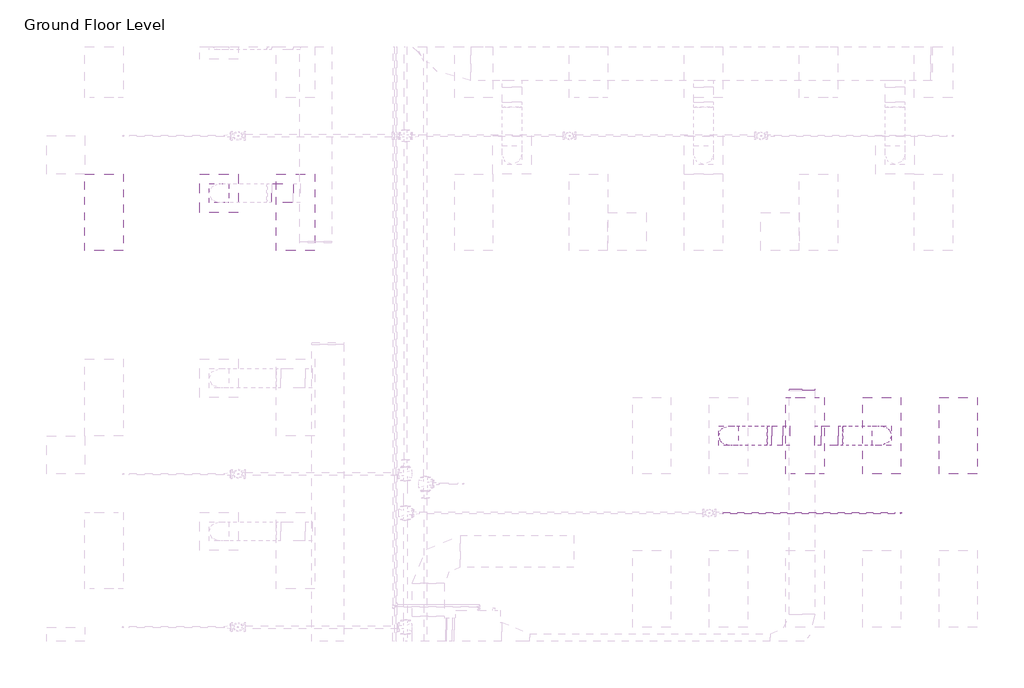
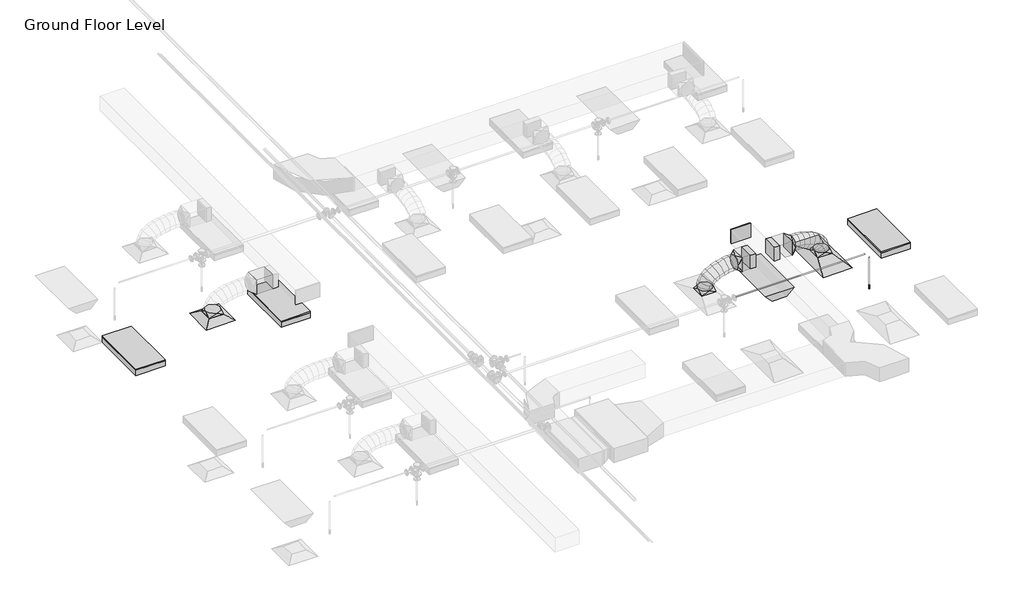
# One storey, part 29 of 75: 8 duct fittings, 5 duct segments, 4 light fixtures, 2 air terminals, 2 pipe segments, 1 fire suppression terminal.
"""IFC4 building model written with IfcOpenShell, lengths in millimetres."""

from ifc_helpers import new_model, si_unit, point, frame, frame_2d, origin, place, context, project, spatial, polyline, circle_curve, ellipse_curve, trimmed, segment, composite_curve, outline, extrude, transform, mapped, element, save
from ifc_brep_helpers import plane_surface, cylinder_surface, advanced_brep
from components import m_return_diffuser_1200x600_1200_x_600_face_300_x_300_d1983ef6, m_return_diffuser_600_x_600_face_300_x_300_connection_ff221211, m_rectangular_endcap_standard_0945e9d3, m_rectangular_takeoff_standard_cb0ccb98, m_rectangular_to_round_transition_angle_45_degree_641efff0, m_sprinkler_dry_pendent_hosted_15_mm_dry_pendent_9bda8e11, m_emergency_recessed_lighting_fixture_600x1200_277_5b10b25d, m_troffer_light_parabolic_rectangular1_0600x1200mm_4_lamp_86473d4a

model = new_model("IFC4")

# Units and contexts
model_context = context("Model", 3, world=origin())
ifc_project = project(units=[si_unit("LENGTHUNIT", "METRE", prefix="MILLI")], contexts=[model_context])

# Site, building, storey
site = spatial("IfcSite", under=ifc_project)
building = spatial("IfcBuilding", under=site)
storey = spatial("IfcBuildingStorey", under=building, Name="Ground Floor Level", Elevation=900.0)

# Air terminals
placement = place(None, origin())
m_return_diffuser_1200x600_1200_x_600_face_300_x_300_shape = m_return_diffuser_1200x600_1200_x_600_face_300_x_300_d1983ef6(model_context)
element("IfcAirTerminal", 1, ObjectType="M_Supply Diffuser 1200x600 : 1200 x 600 Face 300 x 300 Connection", at=placement, inside=storey, context=model_context, shape_type="MappedRepresentation", body=[
    mapped(m_return_diffuser_1200x600_1200_x_600_face_300_x_300_shape, transform((13143.0482736, -18064.7846466, 3650.0), x_axis=(0.0, 1.0, 0.0), y_axis=(-1.0, 0.0, 0.0), z_axis=(0.0, 0.0, 1.0))),
])
m_return_diffuser_600_x_600_face_300_x_300_connection_shape = m_return_diffuser_600_x_600_face_300_x_300_connection_ff221211(model_context)
element("IfcAirTerminal", 2, ObjectType="M_Supply Diffuser : 600 x 600 Face 300 x 300 Connection", at=placement, inside=storey, context=model_context, shape_type="MappedRepresentation", body=[
    mapped(m_return_diffuser_600_x_600_face_300_x_300_connection_shape, transform((2762.7672395, -14264.7846466, 3650.0), x_axis=(1.0, 0.0, 0.0), y_axis=(0.0, 1.0, 0.0), z_axis=(0.0, 0.0, 1.0))),
])

# Duct fittings
m_rectangular_endcap_standard_shape = m_rectangular_endcap_standard_0945e9d3(model_context)
element("IfcDuctFitting", 3, ObjectType="M_Rectangular Endcap : Standard", at=placement, inside=storey, context=model_context, shape_type="MappedRepresentation", body=[
    mapped(m_rectangular_endcap_standard_shape, transform((11897.7826463, -17358.2846466, 4150.0003854), x_axis=(0.0, 1.0, 0.0), y_axis=(-1.0, 0.0, 0.0), z_axis=(0.0, 0.0, 1.0))),
])
m_rectangular_takeoff_standard_shape = m_rectangular_takeoff_standard_cb0ccb98(model_context)
element("IfcDuctFitting", 4, ObjectType="M_Rectangular Takeoff : Standard", at=placement, inside=storey, context=model_context, shape_type="MappedRepresentation", body=[
    mapped(m_rectangular_takeoff_standard_shape, transform((11697.7826463, -18064.7846466, 4150.0), x_axis=(-1.0, 0.0, 0.0), y_axis=(0.0, 1.0, 0.0), z_axis=(0.0, 0.0, -1.0))),
])
element("IfcDuctFitting", 5, ObjectType="M_Rectangular Takeoff : Standard", at=placement, inside=storey, context=model_context, shape_type="MappedRepresentation", body=[
    mapped(m_rectangular_takeoff_standard_shape, transform((12097.7826463, -18064.7846466, 4150.0), x_axis=(1.0, 0.0, 0.0), y_axis=(0.0, 1.0, 0.0), z_axis=(0.0, 0.0, 1.0))),
])
m_rectangular_to_round_transition_angle_45_degree_shape = m_rectangular_to_round_transition_angle_45_degree_641efff0(model_context)
element("IfcDuctFitting", 6, ObjectType="M_Rectangular to Round Transition - Angle : 45 Degree", at=placement, inside=storey, context=model_context, shape_type="MappedRepresentation", body=[
    mapped(m_rectangular_to_round_transition_angle_45_degree_shape, transform((13143.0482736, -18064.7846466, 3751.6), x_axis=(0.0, 0.0, 1.0), y_axis=(-1.0, 0.0, 0.0), z_axis=(0.0, -1.0, 0.0))),
])
element("IfcDuctFitting", 7, ObjectType="M_Rectangular to Round Transition - Angle : 45 Degree", at=placement, inside=storey, context=model_context, shape_type="MappedRepresentation", body=[
    mapped(m_rectangular_to_round_transition_angle_45_degree_shape, transform((12461.6123423, -18064.7846466, 4150.0), x_axis=(1.0, 0.0, 0.0), y_axis=(0.0, 1.0, 0.0), z_axis=(0.0, 0.0, 1.0))),
])
element("IfcDuctFitting", 8, ObjectType="M_Rectangular to Round Transition - Angle : 45 Degree", at=placement, inside=storey, context=model_context, shape_type="MappedRepresentation", body=[
    mapped(m_rectangular_to_round_transition_angle_45_degree_shape, transform((10743.0482736, -18064.7846466, 3751.6), x_axis=(0.0, 0.0, 1.0), y_axis=(-1.0, 0.0, 0.0), z_axis=(0.0, -1.0, 0.0))),
])
element("IfcDuctFitting", 9, ObjectType="M_Rectangular to Round Transition - Angle : 45 Degree", at=placement, inside=storey, context=model_context, shape_type="MappedRepresentation", body=[
    mapped(m_rectangular_to_round_transition_angle_45_degree_shape, transform((11424.4842049, -18064.7846466, 4150.0), x_axis=(-1.0, 0.0, 0.0), y_axis=(0.0, -1.0, 0.0), z_axis=(0.0, 0.0, 1.0))),
])
element("IfcDuctFitting", 10, ObjectType="M_Rectangular to Round Transition - Angle : 45 Degree", at=placement, inside=storey, context=model_context, shape_type="MappedRepresentation", body=[
    mapped(m_rectangular_to_round_transition_angle_45_degree_shape, transform((2762.7672395, -14264.7846466, 3751.6), x_axis=(0.0, 0.0, 1.0), y_axis=(-1.0, 0.0, 0.0), z_axis=(0.0, -1.0, 0.0))),
])

# Duct segments
element("IfcDuctSegment", 11, ObjectType="Flex - Round", at=placement, inside=storey, context=model_context, shape_type="AdvancedBrep", body=[
    advanced_brep(
    [(13293.0482736, -18064.7846466, 3826.6), (13143.0482736, -18214.7846466, 3826.6), (12993.0482736, -18064.7846466, 3826.6), (13143.0482736, -17914.7846466, 3826.6), (13293.0482736, -18064.7846466, 3882.1261126), (13143.0482736, -18214.7846466, 3857.3049615), (12993.0482736, -18064.7846466, 3832.4838104), (13143.0482736, -17914.7846466, 3857.3049615), (13261.8549494, -18064.7846466, 3973.7995287), (13126.3868691, -18214.7846466, 3906.2708192), (12990.9187887, -18064.7846466, 3838.7421096), (13126.3868691, -17914.7846466, 3906.2708192), (13192.1209419, -18064.7846466, 4076.4123668), (13080.5088514, -18214.7846466, 3973.7798261), (12968.8967609, -18064.7846466, 3871.1472855), (13080.5088514, -17914.7846466, 3973.7798261), (13094.1929933, -18064.7846466, 4155.7111802), (13011.5735148, -18214.7846466, 4029.6013814), (12928.9540363, -18064.7846466, 3903.4915826), (13011.5735148, -17914.7846466, 4029.6013814), (12985.4484532, -18064.7846466, 4212.226815), (12925.7401534, -18214.7846466, 4074.2098454), (12866.0318537, -18064.7846466, 3936.1928758), (12925.7401534, -17914.7846466, 4074.2098454), (12871.156661, -18064.7846466, 4252.311196), (12829.1680613, -18214.7846466, 4108.0795788), (12787.1794617, -18064.7846466, 3963.8479616), (12829.1680613, -17914.7846466, 4108.0795788), (12755.4255864, -18064.7846466, 4279.3189347), (12728.0165327, -18214.7846466, 4131.684942), (12700.6074791, -18064.7846466, 3984.0509494), (12728.0165327, -17914.7846466, 4131.684942), (12642.7664277, -18064.7846466, 4294.9501488), (12628.4448617, -18214.7846466, 4145.5002956), (12614.1232957, -18064.7846466, 3996.0504424), (12628.4448617, -17914.7846466, 4145.5002956), (12547.9447851, -18064.7846466, 4300.0), (12543.9533896, -18214.7846466, 4150.0), (12539.9619941, -18064.7846466, 4000.0), (12543.9533896, -17914.7846466, 4150.0), (12536.6123423, -18064.7846466, 4300.0), (12536.6123423, -17914.7846466, 4150.0), (12536.6123423, -18064.7846466, 4000.0), (12536.6123423, -18214.7846466, 4150.0)],
    [
        (0, 1, circle_curve(frame((13143.0482736, -18064.7846466, 3826.6), z_axis=(0.0, 0.0, -1.0), x_axis=(1.0, 0.0, 0.0)), 150.0)),
        (1, 2, circle_curve(frame((13143.0482736, -18064.7846466, 3826.6), z_axis=(0.0, 0.0, -1.0), x_axis=(1.0, 0.0, 0.0)), 150.0)),
        (2, 3, circle_curve(frame((13143.0482736, -18064.7846466, 3826.6), z_axis=(0.0, 0.0, -1.0), x_axis=(1.0, 0.0, 0.0)), 150.0)),
        (3, 0, circle_curve(frame((13143.0482736, -18064.7846466, 3826.6), z_axis=(0.0, 0.0, -1.0), x_axis=(1.0, 0.0, 0.0)), 150.0)),
        (0, 4),
        (4, 5, ellipse_curve(frame((13143.0482736, -18064.7846466, 3857.3049615), z_axis=(0.16325433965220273, 0.0, -0.9865840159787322), x_axis=(-0.9865840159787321, 0.0, -0.1632543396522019)), 152.039763, 150.0)),
        (5, 1),
        (5, 6, ellipse_curve(frame((13143.0482736, -18064.7846466, 3857.3049615), z_axis=(0.16325433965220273, 0.0, -0.9865840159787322), x_axis=(-0.9865840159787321, 0.0, -0.1632543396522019)), 152.039763, 150.0)),
        (6, 2),
        (6, 7, ellipse_curve(frame((13143.0482736, -18064.7846466, 3857.3049615), z_axis=(0.16325433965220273, 0.0, -0.9865840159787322), x_axis=(-0.9865840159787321, 0.0, -0.1632543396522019)), 152.039763, 150.0)),
        (7, 3),
        (7, 4, ellipse_curve(frame((13143.0482736, -18064.7846466, 3857.3049615), z_axis=(0.16325433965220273, 0.0, -0.9865840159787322), x_axis=(-0.9865840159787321, 0.0, -0.1632543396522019)), 152.039763, 150.0)),
        (4, 8),
        (8, 9, ellipse_curve(frame((13126.3868691, -18064.7846466, 3906.2708192), z_axis=(0.44612805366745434, 0.0, -0.8949691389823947), x_axis=(-0.8949691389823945, 0.0, -0.4461280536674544)), 151.366203, 150.0)),
        (9, 5),
        (9, 10, ellipse_curve(frame((13126.3868691, -18064.7846466, 3906.2708192), z_axis=(0.44612805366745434, 0.0, -0.8949691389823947), x_axis=(-0.8949691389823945, 0.0, -0.4461280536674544)), 151.366203, 150.0)),
        (10, 6),
        (10, 11, ellipse_curve(frame((13126.3868691, -18064.7846466, 3906.2708192), z_axis=(0.44612805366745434, 0.0, -0.8949691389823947), x_axis=(-0.8949691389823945, 0.0, -0.4461280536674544)), 151.366203, 150.0)),
        (11, 7),
        (11, 8, ellipse_curve(frame((13126.3868691, -18064.7846466, 3906.2708192), z_axis=(0.44612805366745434, 0.0, -0.8949691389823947), x_axis=(-0.8949691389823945, 0.0, -0.4461280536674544)), 151.366203, 150.0)),
        (8, 12),
        (12, 13, ellipse_curve(frame((13080.5088514, -18064.7846466, 3973.7798261), z_axis=(0.6768758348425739, 0.0, -0.7360972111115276), x_axis=(-0.7360972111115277, 0.0, -0.6768758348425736)), 151.6268352, 150.0)),
        (13, 9),
        (13, 14, ellipse_curve(frame((13080.5088514, -18064.7846466, 3973.7798261), z_axis=(0.6768758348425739, 0.0, -0.7360972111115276), x_axis=(-0.7360972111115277, 0.0, -0.6768758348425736)), 151.6268352, 150.0)),
        (14, 10),
        (14, 15, ellipse_curve(frame((13080.5088514, -18064.7846466, 3973.7798261), z_axis=(0.6768758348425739, 0.0, -0.7360972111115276), x_axis=(-0.7360972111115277, 0.0, -0.6768758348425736)), 151.6268352, 150.0)),
        (15, 11),
        (15, 12, ellipse_curve(frame((13080.5088514, -18064.7846466, 3973.7798261), z_axis=(0.6768758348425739, 0.0, -0.7360972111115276), x_axis=(-0.7360972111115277, 0.0, -0.6768758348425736)), 151.6268352, 150.0)),
        (12, 16),
        (16, 17, ellipse_curve(frame((13011.5735148, -18064.7846466, 4029.6013814), z_axis=(0.8364738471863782, 0.0, -0.548006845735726), x_axis=(-0.5480068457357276, 0.0, -0.836473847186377)), 150.7635884, 150.0)),
        (17, 13),
        (17, 18, ellipse_curve(frame((13011.5735148, -18064.7846466, 4029.6013814), z_axis=(0.8364738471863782, 0.0, -0.548006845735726), x_axis=(-0.5480068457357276, 0.0, -0.836473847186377)), 150.7635884, 150.0)),
        (18, 14),
        (18, 19, ellipse_curve(frame((13011.5735148, -18064.7846466, 4029.6013814), z_axis=(0.8364738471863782, 0.0, -0.548006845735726), x_axis=(-0.5480068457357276, 0.0, -0.836473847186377)), 150.7635884, 150.0)),
        (19, 15),
        (19, 16, ellipse_curve(frame((13011.5735148, -18064.7846466, 4029.6013814), z_axis=(0.8364738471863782, 0.0, -0.548006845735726), x_axis=(-0.5480068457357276, 0.0, -0.836473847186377)), 150.7635884, 150.0)),
        (16, 20),
        (20, 21, ellipse_curve(frame((12925.7401534, -18064.7846466, 4074.2098454), z_axis=(0.9177957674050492, 0.0, -0.39705280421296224), x_axis=(-0.397052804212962, 0.0, -0.9177957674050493)), 150.3787384, 150.0)),
        (21, 17),
        (21, 22, ellipse_curve(frame((12925.7401534, -18064.7846466, 4074.2098454), z_axis=(0.9177957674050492, 0.0, -0.39705280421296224), x_axis=(-0.397052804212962, 0.0, -0.9177957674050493)), 150.3787384, 150.0)),
        (22, 18),
        (22, 23, ellipse_curve(frame((12925.7401534, -18064.7846466, 4074.2098454), z_axis=(0.9177957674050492, 0.0, -0.39705280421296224), x_axis=(-0.397052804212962, 0.0, -0.9177957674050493)), 150.3787384, 150.0)),
        (23, 19),
        (23, 20, ellipse_curve(frame((12925.7401534, -18064.7846466, 4074.2098454), z_axis=(0.9177957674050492, 0.0, -0.39705280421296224), x_axis=(-0.397052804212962, 0.0, -0.9177957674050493)), 150.3787384, 150.0)),
        (20, 24),
        (24, 25, ellipse_curve(frame((12829.1680613, -18064.7846466, 4108.0795788), z_axis=(0.960141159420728, 0.0, -0.27951557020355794), x_axis=(-0.2795155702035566, 0.0, -0.9601411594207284)), 150.2191795, 150.0)),
        (25, 21),
        (25, 26, ellipse_curve(frame((12829.1680613, -18064.7846466, 4108.0795788), z_axis=(0.960141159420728, 0.0, -0.27951557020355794), x_axis=(-0.2795155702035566, 0.0, -0.9601411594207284)), 150.2191795, 150.0)),
        (26, 22),
        (26, 27, ellipse_curve(frame((12829.1680613, -18064.7846466, 4108.0795788), z_axis=(0.960141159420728, 0.0, -0.27951557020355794), x_axis=(-0.2795155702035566, 0.0, -0.9601411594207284)), 150.2191795, 150.0)),
        (27, 23),
        (27, 24, ellipse_curve(frame((12829.1680613, -18064.7846466, 4108.0795788), z_axis=(0.960141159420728, 0.0, -0.27951557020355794), x_axis=(-0.2795155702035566, 0.0, -0.9601411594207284)), 150.2191795, 150.0)),
        (24, 28),
        (28, 29, ellipse_curve(frame((12728.0165327, -18064.7846466, 4131.684942), z_axis=(0.9831991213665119, 0.0, -0.18253626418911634), x_axis=(-0.18253626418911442, 0.0, -0.9831991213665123)), 150.1567581, 150.0)),
        (29, 25),
        (29, 30, ellipse_curve(frame((12728.0165327, -18064.7846466, 4131.684942), z_axis=(0.9831991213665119, 0.0, -0.18253626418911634), x_axis=(-0.18253626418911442, 0.0, -0.9831991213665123)), 150.1567581, 150.0)),
        (30, 26),
        (30, 31, ellipse_curve(frame((12728.0165327, -18064.7846466, 4131.684942), z_axis=(0.9831991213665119, 0.0, -0.18253626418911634), x_axis=(-0.18253626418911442, 0.0, -0.9831991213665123)), 150.1567581, 150.0)),
        (31, 27),
        (31, 28, ellipse_curve(frame((12728.0165327, -18064.7846466, 4131.684942), z_axis=(0.9831991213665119, 0.0, -0.18253626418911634), x_axis=(-0.18253626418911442, 0.0, -0.9831991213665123)), 150.1567581, 150.0)),
        (28, 32),
        (32, 33, ellipse_curve(frame((12628.4448617, -18064.7846466, 4145.5002956), z_axis=(0.9954398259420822, 0.0, -0.09539157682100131), x_axis=(-0.09539157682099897, 0.0, -0.9954398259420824)), 150.1344926, 150.0)),
        (33, 29),
        (33, 34, ellipse_curve(frame((12628.4448617, -18064.7846466, 4145.5002956), z_axis=(0.9954398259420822, 0.0, -0.09539157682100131), x_axis=(-0.09539157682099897, 0.0, -0.9954398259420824)), 150.1344926, 150.0)),
        (34, 30),
        (34, 35, ellipse_curve(frame((12628.4448617, -18064.7846466, 4145.5002956), z_axis=(0.9954398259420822, 0.0, -0.09539157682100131), x_axis=(-0.09539157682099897, 0.0, -0.9954398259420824)), 150.1344926, 150.0)),
        (35, 31),
        (35, 32, ellipse_curve(frame((12628.4448617, -18064.7846466, 4145.5002956), z_axis=(0.9954398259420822, 0.0, -0.09539157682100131), x_axis=(-0.09539157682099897, 0.0, -0.9954398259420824)), 150.1344926, 150.0)),
        (32, 36),
        (36, 37, ellipse_curve(frame((12543.9533896, -18064.7846466, 4150.0), z_axis=(0.9996461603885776, 0.0, -0.02659988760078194), x_axis=(-0.026599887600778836, 0.0, -0.9996461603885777)), 150.0530947, 150.0)),
        (37, 33),
        (37, 38, ellipse_curve(frame((12543.9533896, -18064.7846466, 4150.0), z_axis=(0.9996461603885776, 0.0, -0.02659988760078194), x_axis=(-0.026599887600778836, 0.0, -0.9996461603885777)), 150.0530947, 150.0)),
        (38, 34),
        (38, 39, ellipse_curve(frame((12543.9533896, -18064.7846466, 4150.0), z_axis=(0.9996461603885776, 0.0, -0.02659988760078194), x_axis=(-0.026599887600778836, 0.0, -0.9996461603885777)), 150.0530947, 150.0)),
        (39, 35),
        (39, 36, ellipse_curve(frame((12543.9533896, -18064.7846466, 4150.0), z_axis=(0.9996461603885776, 0.0, -0.02659988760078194), x_axis=(-0.026599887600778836, 0.0, -0.9996461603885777)), 150.0530947, 150.0)),
        (40, 41, circle_curve(frame((12536.6123423, -18064.7846466, 4150.0), z_axis=(-1.0, 0.0, 0.0), x_axis=(0.0, 0.0, 1.0)), 150.0)),
        (41, 42, circle_curve(frame((12536.6123423, -18064.7846466, 4150.0), z_axis=(-1.0, 0.0, 0.0), x_axis=(0.0, 0.0, 1.0)), 150.0)),
        (42, 43, circle_curve(frame((12536.6123423, -18064.7846466, 4150.0), z_axis=(-1.0, 0.0, 0.0), x_axis=(0.0, 0.0, 1.0)), 150.0)),
        (43, 40, circle_curve(frame((12536.6123423, -18064.7846466, 4150.0), z_axis=(-1.0, 0.0, 0.0), x_axis=(0.0, 0.0, 1.0)), 150.0)),
        (36, 40),
        (43, 37),
        (42, 38),
        (41, 39),
    ],
    [
        plane_surface(frame((13143.0482736, -18214.7846466, 3826.6), z_axis=(0.0, 0.0, -1.0), x_axis=(1.0, 0.0, 0.0))),
        cylinder_surface(frame((13143.0482736, -18064.7846466, 3826.6), z_axis=(0.0, 0.0, -1.0), x_axis=(1.0, 0.0, 0.0)), 150.0),
        cylinder_surface(frame((13143.0482736, -18064.7846466, 3857.3049615), z_axis=(0.3221282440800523, 0.0, -0.9466960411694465), x_axis=(0.9466960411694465, 0.0, 0.3221282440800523)), 150.0),
        cylinder_surface(frame((13126.3868691, -18064.7846466, 3906.2708192), z_axis=(0.5620745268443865, 0.0, -0.8270865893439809), x_axis=(0.8270865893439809, 0.0, 0.5620745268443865)), 150.0),
        cylinder_surface(frame((13080.5088514, -18064.7846466, 3973.7798261), z_axis=(0.7771524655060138, 0.0, -0.6293123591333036), x_axis=(0.6293123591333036, 0.0, 0.7771524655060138)), 150.0),
        cylinder_surface(frame((13011.5735148, -18064.7846466, 4029.6013814), z_axis=(0.8873220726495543, 0.0, -0.4611502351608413), x_axis=(0.4611502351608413, 0.0, 0.8873220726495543)), 150.0),
        cylinder_surface(frame((12925.7401534, -18064.7846466, 4074.2098454), z_axis=(0.943646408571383, 0.0, -0.3309553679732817), x_axis=(0.3309553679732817, 0.0, 0.943646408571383)), 150.0),
        cylinder_surface(frame((12829.1680613, -18064.7846466, 4108.0795788), z_axis=(0.9738340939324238, 0.0, -0.22726010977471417), x_axis=(0.22726010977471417, 0.0, 0.9738340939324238)), 150.0),
        cylinder_surface(frame((12728.0165327, -18064.7846466, 4131.684942), z_axis=(0.9905113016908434, 0.0, -0.1374312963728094), x_axis=(0.1374312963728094, 0.0, 0.9905113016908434)), 150.0),
        cylinder_surface(frame((12628.4448617, -18064.7846466, 4145.5002956), z_axis=(0.9985848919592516, 0.0, -0.05318095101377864), x_axis=(0.05318095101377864, 0.0, 0.9985848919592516)), 150.0),
        plane_surface(frame((12536.6123423, -18064.7846466, 4000.0), z_axis=(-1.0, 0.0, 0.0), x_axis=(0.0, -1.0, 0.0))),
        cylinder_surface(frame((12543.9533896, -18064.7846466, 4150.0), z_axis=(1.0, 0.0, 0.0), x_axis=(0.0, 0.0, 1.0)), 150.0),
    ],
    [
        (0, [[1, 2, 3, 4]]),
        (1, [[-1, 5, 6, 7]]),
        (1, [[-2, -7, 8, 9]]),
        (1, [[-3, -9, 10, 11]]),
        (1, [[-4, -11, 12, -5]]),
        (2, [[-6, 13, 14, 15]]),
        (2, [[-8, -15, 16, 17]]),
        (2, [[-10, -17, 18, 19]]),
        (2, [[-12, -19, 20, -13]]),
        (3, [[-14, 21, 22, 23]]),
        (3, [[-16, -23, 24, 25]]),
        (3, [[-18, -25, 26, 27]]),
        (3, [[-20, -27, 28, -21]]),
        (4, [[-22, 29, 30, 31]]),
        (4, [[-24, -31, 32, 33]]),
        (4, [[-26, -33, 34, 35]]),
        (4, [[-28, -35, 36, -29]]),
        (5, [[-30, 37, 38, 39]]),
        (5, [[-32, -39, 40, 41]]),
        (5, [[-34, -41, 42, 43]]),
        (5, [[-36, -43, 44, -37]]),
        (6, [[-38, 45, 46, 47]]),
        (6, [[-40, -47, 48, 49]]),
        (6, [[-42, -49, 50, 51]]),
        (6, [[-44, -51, 52, -45]]),
        (7, [[-46, 53, 54, 55]]),
        (7, [[-48, -55, 56, 57]]),
        (7, [[-50, -57, 58, 59]]),
        (7, [[-52, -59, 60, -53]]),
        (8, [[-54, 61, 62, 63]]),
        (8, [[-56, -63, 64, 65]]),
        (8, [[-58, -65, 66, 67]]),
        (8, [[-60, -67, 68, -61]]),
        (9, [[-62, 69, 70, 71]]),
        (9, [[-64, -71, 72, 73]]),
        (9, [[-66, -73, 74, 75]]),
        (9, [[-68, -75, 76, -69]]),
        (10, [[77, 78, 79, 80]]),
        (11, [[-70, 81, -80, 82]]),
        (11, [[-72, -82, -79, 83]]),
        (11, [[-74, -83, -78, 84]]),
        (11, [[-76, -84, -77, -81]]),
    ],
),
])
element("IfcDuctSegment", 12, ObjectType="Flex - Round", at=placement, inside=storey, context=model_context, shape_type="AdvancedBrep", body=[
    advanced_brep(
    [(10893.0482736, -18064.7846466, 3826.6), (10743.0482736, -18214.7846466, 3826.6), (10593.0482736, -18064.7846466, 3826.6), (10743.0482736, -17914.7846466, 3826.6), (10893.0482736, -18064.7846466, 3832.4838104), (10743.0482736, -18214.7846466, 3857.3049615), (10593.0482736, -18064.7846466, 3882.1261126), (10743.0482736, -17914.7846466, 3857.3049615), (10895.1777586, -18064.7846466, 3838.7421096), (10759.7096782, -18214.7846466, 3906.2708192), (10624.2415979, -18064.7846466, 3973.7995287), (10759.7096782, -17914.7846466, 3906.2708192), (10917.1997864, -18064.7846466, 3871.1472855), (10805.5876959, -18214.7846466, 3973.7798261), (10693.9756053, -18064.7846466, 4076.4123668), (10805.5876959, -17914.7846466, 3973.7798261), (10957.142511, -18064.7846466, 3903.4915826), (10874.5230324, -18214.7846466, 4029.6013814), (10791.9035539, -18064.7846466, 4155.7111802), (10874.5230324, -17914.7846466, 4029.6013814), (11020.0646936, -18064.7846466, 3936.1928758), (10960.3563938, -18214.7846466, 4074.2098454), (10900.6480941, -18064.7846466, 4212.226815), (10960.3563938, -17914.7846466, 4074.2098454), (11098.9170855, -18064.7846466, 3963.8479616), (11056.9284859, -18214.7846466, 4108.0795788), (11014.9398863, -18064.7846466, 4252.311196), (11056.9284859, -17914.7846466, 4108.0795788), (11185.4890682, -18064.7846466, 3984.0509494), (11158.0800145, -18214.7846466, 4131.684942), (11130.6709609, -18064.7846466, 4279.3189347), (11158.0800145, -17914.7846466, 4131.684942), (11271.9732516, -18064.7846466, 3996.0504424), (11257.6516856, -18214.7846466, 4145.5002956), (11243.3301196, -18064.7846466, 4294.9501488), (11257.6516856, -17914.7846466, 4145.5002956), (11346.1345531, -18064.7846466, 4000.0), (11342.1431577, -18214.7846466, 4150.0), (11338.1517622, -18064.7846466, 4300.0), (11342.1431577, -17914.7846466, 4150.0), (11349.4842049, -18064.7846466, 4000.0), (11349.4842049, -17914.7846466, 4150.0), (11349.4842049, -18064.7846466, 4300.0), (11349.4842049, -18214.7846466, 4150.0)],
    [
        (0, 1, circle_curve(frame((10743.0482736, -18064.7846466, 3826.6), z_axis=(0.0, 0.0, -1.0), x_axis=(1.0, 0.0, 0.0)), 150.0)),
        (1, 2, circle_curve(frame((10743.0482736, -18064.7846466, 3826.6), z_axis=(0.0, 0.0, -1.0), x_axis=(1.0, 0.0, 0.0)), 150.0)),
        (2, 3, circle_curve(frame((10743.0482736, -18064.7846466, 3826.6), z_axis=(0.0, 0.0, -1.0), x_axis=(1.0, 0.0, 0.0)), 150.0)),
        (3, 0, circle_curve(frame((10743.0482736, -18064.7846466, 3826.6), z_axis=(0.0, 0.0, -1.0), x_axis=(1.0, 0.0, 0.0)), 150.0)),
        (0, 4),
        (4, 5, ellipse_curve(frame((10743.0482736, -18064.7846466, 3857.3049615), z_axis=(-0.1632543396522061, 0.0, -0.9865840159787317), x_axis=(0.9865840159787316, 0.0, -0.16325433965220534)), 152.039763, 150.0)),
        (5, 1),
        (5, 6, ellipse_curve(frame((10743.0482736, -18064.7846466, 3857.3049615), z_axis=(-0.1632543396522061, 0.0, -0.9865840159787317), x_axis=(0.9865840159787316, 0.0, -0.16325433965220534)), 152.039763, 150.0)),
        (6, 2),
        (6, 7, ellipse_curve(frame((10743.0482736, -18064.7846466, 3857.3049615), z_axis=(-0.1632543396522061, 0.0, -0.9865840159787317), x_axis=(0.9865840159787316, 0.0, -0.16325433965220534)), 152.039763, 150.0)),
        (7, 3),
        (7, 4, ellipse_curve(frame((10743.0482736, -18064.7846466, 3857.3049615), z_axis=(-0.1632543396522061, 0.0, -0.9865840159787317), x_axis=(0.9865840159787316, 0.0, -0.16325433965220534)), 152.039763, 150.0)),
        (4, 8),
        (8, 9, ellipse_curve(frame((10759.7096782, -18064.7846466, 3906.2708192), z_axis=(-0.4461280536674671, 0.0, -0.8949691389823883), x_axis=(0.8949691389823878, 0.0, -0.4461280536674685)), 151.366203, 150.0)),
        (9, 5),
        (9, 10, ellipse_curve(frame((10759.7096782, -18064.7846466, 3906.2708192), z_axis=(-0.4461280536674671, 0.0, -0.8949691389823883), x_axis=(0.8949691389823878, 0.0, -0.4461280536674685)), 151.366203, 150.0)),
        (10, 6),
        (10, 11, ellipse_curve(frame((10759.7096782, -18064.7846466, 3906.2708192), z_axis=(-0.4461280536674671, 0.0, -0.8949691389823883), x_axis=(0.8949691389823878, 0.0, -0.4461280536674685)), 151.366203, 150.0)),
        (11, 7),
        (11, 8, ellipse_curve(frame((10759.7096782, -18064.7846466, 3906.2708192), z_axis=(-0.4461280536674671, 0.0, -0.8949691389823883), x_axis=(0.8949691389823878, 0.0, -0.4461280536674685)), 151.366203, 150.0)),
        (8, 12),
        (12, 13, ellipse_curve(frame((10805.5876959, -18064.7846466, 3973.7798261), z_axis=(-0.676875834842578, 0.0, -0.7360972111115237), x_axis=(0.7360972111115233, 0.0, -0.6768758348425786)), 151.6268352, 150.0)),
        (13, 9),
        (13, 14, ellipse_curve(frame((10805.5876959, -18064.7846466, 3973.7798261), z_axis=(-0.676875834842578, 0.0, -0.7360972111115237), x_axis=(0.7360972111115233, 0.0, -0.6768758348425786)), 151.6268352, 150.0)),
        (14, 10),
        (14, 15, ellipse_curve(frame((10805.5876959, -18064.7846466, 3973.7798261), z_axis=(-0.676875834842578, 0.0, -0.7360972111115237), x_axis=(0.7360972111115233, 0.0, -0.6768758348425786)), 151.6268352, 150.0)),
        (15, 11),
        (15, 12, ellipse_curve(frame((10805.5876959, -18064.7846466, 3973.7798261), z_axis=(-0.676875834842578, 0.0, -0.7360972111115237), x_axis=(0.7360972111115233, 0.0, -0.6768758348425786)), 151.6268352, 150.0)),
        (12, 16),
        (16, 17, ellipse_curve(frame((10874.5230324, -18064.7846466, 4029.6013814), z_axis=(-0.8364738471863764, 0.0, -0.5480068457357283), x_axis=(0.5480068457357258, 0.0, -0.8364738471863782)), 150.7635884, 150.0)),
        (17, 13),
        (17, 18, ellipse_curve(frame((10874.5230324, -18064.7846466, 4029.6013814), z_axis=(-0.8364738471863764, 0.0, -0.5480068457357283), x_axis=(0.5480068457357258, 0.0, -0.8364738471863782)), 150.7635884, 150.0)),
        (18, 14),
        (18, 19, ellipse_curve(frame((10874.5230324, -18064.7846466, 4029.6013814), z_axis=(-0.8364738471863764, 0.0, -0.5480068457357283), x_axis=(0.5480068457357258, 0.0, -0.8364738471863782)), 150.7635884, 150.0)),
        (19, 15),
        (19, 16, ellipse_curve(frame((10874.5230324, -18064.7846466, 4029.6013814), z_axis=(-0.8364738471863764, 0.0, -0.5480068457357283), x_axis=(0.5480068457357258, 0.0, -0.8364738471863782)), 150.7635884, 150.0)),
        (16, 20),
        (20, 21, ellipse_curve(frame((10960.3563938, -18064.7846466, 4074.2098454), z_axis=(-0.9177957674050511, 0.0, -0.39705280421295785), x_axis=(0.3970528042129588, 0.0, -0.9177957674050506)), 150.3787384, 150.0)),
        (21, 17),
        (21, 22, ellipse_curve(frame((10960.3563938, -18064.7846466, 4074.2098454), z_axis=(-0.9177957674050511, 0.0, -0.39705280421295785), x_axis=(0.3970528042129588, 0.0, -0.9177957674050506)), 150.3787384, 150.0)),
        (22, 18),
        (22, 23, ellipse_curve(frame((10960.3563938, -18064.7846466, 4074.2098454), z_axis=(-0.9177957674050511, 0.0, -0.39705280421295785), x_axis=(0.3970528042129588, 0.0, -0.9177957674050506)), 150.3787384, 150.0)),
        (23, 19),
        (23, 20, ellipse_curve(frame((10960.3563938, -18064.7846466, 4074.2098454), z_axis=(-0.9177957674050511, 0.0, -0.39705280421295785), x_axis=(0.3970528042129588, 0.0, -0.9177957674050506)), 150.3787384, 150.0)),
        (20, 24),
        (24, 25, ellipse_curve(frame((11056.9284859, -18064.7846466, 4108.0795788), z_axis=(-0.9601411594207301, 0.0, -0.2795155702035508), x_axis=(0.2795155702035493, 0.0, -0.9601411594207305)), 150.2191795, 150.0)),
        (25, 21),
        (25, 26, ellipse_curve(frame((11056.9284859, -18064.7846466, 4108.0795788), z_axis=(-0.9601411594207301, 0.0, -0.2795155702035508), x_axis=(0.2795155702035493, 0.0, -0.9601411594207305)), 150.2191795, 150.0)),
        (26, 22),
        (26, 27, ellipse_curve(frame((11056.9284859, -18064.7846466, 4108.0795788), z_axis=(-0.9601411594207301, 0.0, -0.2795155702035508), x_axis=(0.2795155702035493, 0.0, -0.9601411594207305)), 150.2191795, 150.0)),
        (27, 23),
        (27, 24, ellipse_curve(frame((11056.9284859, -18064.7846466, 4108.0795788), z_axis=(-0.9601411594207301, 0.0, -0.2795155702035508), x_axis=(0.2795155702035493, 0.0, -0.9601411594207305)), 150.2191795, 150.0)),
        (24, 28),
        (28, 29, ellipse_curve(frame((11158.0800145, -18064.7846466, 4131.684942), z_axis=(-0.9831991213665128, 0.0, -0.18253626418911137), x_axis=(0.18253626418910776, 0.0, -0.9831991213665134)), 150.1567581, 150.0)),
        (29, 25),
        (29, 30, ellipse_curve(frame((11158.0800145, -18064.7846466, 4131.684942), z_axis=(-0.9831991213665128, 0.0, -0.18253626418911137), x_axis=(0.18253626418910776, 0.0, -0.9831991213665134)), 150.1567581, 150.0)),
        (30, 26),
        (30, 31, ellipse_curve(frame((11158.0800145, -18064.7846466, 4131.684942), z_axis=(-0.9831991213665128, 0.0, -0.18253626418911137), x_axis=(0.18253626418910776, 0.0, -0.9831991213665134)), 150.1567581, 150.0)),
        (31, 27),
        (31, 28, ellipse_curve(frame((11158.0800145, -18064.7846466, 4131.684942), z_axis=(-0.9831991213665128, 0.0, -0.18253626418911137), x_axis=(0.18253626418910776, 0.0, -0.9831991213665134)), 150.1567581, 150.0)),
        (28, 32),
        (32, 33, ellipse_curve(frame((11257.6516856, -18064.7846466, 4145.5002956), z_axis=(-0.9954398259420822, 0.0, -0.09539157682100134), x_axis=(0.09539157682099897, 0.0, -0.9954398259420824)), 150.1344926, 150.0)),
        (33, 29),
        (33, 34, ellipse_curve(frame((11257.6516856, -18064.7846466, 4145.5002956), z_axis=(-0.9954398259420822, 0.0, -0.09539157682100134), x_axis=(0.09539157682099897, 0.0, -0.9954398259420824)), 150.1344926, 150.0)),
        (34, 30),
        (34, 35, ellipse_curve(frame((11257.6516856, -18064.7846466, 4145.5002956), z_axis=(-0.9954398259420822, 0.0, -0.09539157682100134), x_axis=(0.09539157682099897, 0.0, -0.9954398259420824)), 150.1344926, 150.0)),
        (35, 31),
        (35, 32, ellipse_curve(frame((11257.6516856, -18064.7846466, 4145.5002956), z_axis=(-0.9954398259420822, 0.0, -0.09539157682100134), x_axis=(0.09539157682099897, 0.0, -0.9954398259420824)), 150.1344926, 150.0)),
        (32, 36),
        (36, 37, ellipse_curve(frame((11342.1431577, -18064.7846466, 4150.0), z_axis=(-0.9996461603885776, 0.0, -0.02659988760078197), x_axis=(0.026599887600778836, 0.0, -0.9996461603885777)), 150.0530947, 150.0)),
        (37, 33),
        (37, 38, ellipse_curve(frame((11342.1431577, -18064.7846466, 4150.0), z_axis=(-0.9996461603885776, 0.0, -0.02659988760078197), x_axis=(0.026599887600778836, 0.0, -0.9996461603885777)), 150.0530947, 150.0)),
        (38, 34),
        (38, 39, ellipse_curve(frame((11342.1431577, -18064.7846466, 4150.0), z_axis=(-0.9996461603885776, 0.0, -0.02659988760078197), x_axis=(0.026599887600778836, 0.0, -0.9996461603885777)), 150.0530947, 150.0)),
        (39, 35),
        (39, 36, ellipse_curve(frame((11342.1431577, -18064.7846466, 4150.0), z_axis=(-0.9996461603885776, 0.0, -0.02659988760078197), x_axis=(0.026599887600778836, 0.0, -0.9996461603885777)), 150.0530947, 150.0)),
        (40, 41, circle_curve(frame((11349.4842049, -18064.7846466, 4150.0), z_axis=(1.0, 0.0, 0.0), x_axis=(0.0, 0.0, -1.0)), 150.0)),
        (41, 42, circle_curve(frame((11349.4842049, -18064.7846466, 4150.0), z_axis=(1.0, 0.0, 0.0), x_axis=(0.0, 0.0, -1.0)), 150.0)),
        (42, 43, circle_curve(frame((11349.4842049, -18064.7846466, 4150.0), z_axis=(1.0, 0.0, 0.0), x_axis=(0.0, 0.0, -1.0)), 150.0)),
        (43, 40, circle_curve(frame((11349.4842049, -18064.7846466, 4150.0), z_axis=(1.0, 0.0, 0.0), x_axis=(0.0, 0.0, -1.0)), 150.0)),
        (36, 40),
        (43, 37),
        (42, 38),
        (41, 39),
    ],
    [
        plane_surface(frame((10743.0482736, -18214.7846466, 3826.6), z_axis=(0.0, 0.0, -1.0), x_axis=(1.0, 0.0, 0.0))),
        cylinder_surface(frame((10743.0482736, -18064.7846466, 3826.6), z_axis=(0.0, 0.0, -1.0), x_axis=(1.0, 0.0, 0.0)), 150.0),
        cylinder_surface(frame((10743.0482736, -18064.7846466, 3857.3049615), z_axis=(-0.3221282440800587, 0.0, -0.9466960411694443), x_axis=(0.9466960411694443, 0.0, -0.3221282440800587)), 150.0),
        cylinder_surface(frame((10759.7096782, -18064.7846466, 3906.2708192), z_axis=(-0.5620745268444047, 0.0, -0.8270865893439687), x_axis=(0.8270865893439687, 0.0, -0.5620745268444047)), 150.0),
        cylinder_surface(frame((10805.5876959, -18064.7846466, 3973.7798261), z_axis=(-0.7771524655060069, 0.0, -0.629312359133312), x_axis=(0.629312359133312, 0.0, -0.7771524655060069)), 150.0),
        cylinder_surface(frame((10874.5230324, -18064.7846466, 4029.6013814), z_axis=(-0.8873220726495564, 0.0, -0.46115023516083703), x_axis=(0.46115023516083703, 0.0, -0.8873220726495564)), 150.0),
        cylinder_surface(frame((10960.3563938, -18064.7846466, 4074.2098454), z_axis=(-0.9436464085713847, 0.0, -0.3309553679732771), x_axis=(0.3309553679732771, 0.0, -0.9436464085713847)), 150.0),
        cylinder_surface(frame((11056.9284859, -18064.7846466, 4108.0795788), z_axis=(-0.9738340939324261, 0.0, -0.22726010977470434), x_axis=(0.22726010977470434, 0.0, -0.9738340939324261)), 150.0),
        cylinder_surface(frame((11158.0800145, -18064.7846466, 4131.684942), z_axis=(-0.9905113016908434, 0.0, -0.13743129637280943), x_axis=(0.13743129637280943, 0.0, -0.9905113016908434)), 150.0),
        cylinder_surface(frame((11257.6516856, -18064.7846466, 4145.5002956), z_axis=(-0.9985848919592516, 0.0, -0.05318095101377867), x_axis=(0.05318095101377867, 0.0, -0.9985848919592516)), 150.0),
        plane_surface(frame((11349.4842049, -18064.7846466, 4000.0), z_axis=(1.0, 0.0, 0.0), x_axis=(0.0, 1.0, 0.0))),
        cylinder_surface(frame((11342.1431577, -18064.7846466, 4150.0), z_axis=(-1.0, 0.0, 0.0), x_axis=(0.0, 0.0, -1.0)), 150.0),
    ],
    [
        (0, [[1, 2, 3, 4]]),
        (1, [[-1, 5, 6, 7]]),
        (1, [[-2, -7, 8, 9]]),
        (1, [[-3, -9, 10, 11]]),
        (1, [[-4, -11, 12, -5]]),
        (2, [[-6, 13, 14, 15]]),
        (2, [[-8, -15, 16, 17]]),
        (2, [[-10, -17, 18, 19]]),
        (2, [[-12, -19, 20, -13]]),
        (3, [[-14, 21, 22, 23]]),
        (3, [[-16, -23, 24, 25]]),
        (3, [[-18, -25, 26, 27]]),
        (3, [[-20, -27, 28, -21]]),
        (4, [[-22, 29, 30, 31]]),
        (4, [[-24, -31, 32, 33]]),
        (4, [[-26, -33, 34, 35]]),
        (4, [[-28, -35, 36, -29]]),
        (5, [[-30, 37, 38, 39]]),
        (5, [[-32, -39, 40, 41]]),
        (5, [[-34, -41, 42, 43]]),
        (5, [[-36, -43, 44, -37]]),
        (6, [[-38, 45, 46, 47]]),
        (6, [[-40, -47, 48, 49]]),
        (6, [[-42, -49, 50, 51]]),
        (6, [[-44, -51, 52, -45]]),
        (7, [[-46, 53, 54, 55]]),
        (7, [[-48, -55, 56, 57]]),
        (7, [[-50, -57, 58, 59]]),
        (7, [[-52, -59, 60, -53]]),
        (8, [[-54, 61, 62, 63]]),
        (8, [[-56, -63, 64, 65]]),
        (8, [[-58, -65, 66, 67]]),
        (8, [[-60, -67, 68, -61]]),
        (9, [[-62, 69, 70, 71]]),
        (9, [[-64, -71, 72, 73]]),
        (9, [[-66, -73, 74, 75]]),
        (9, [[-68, -75, 76, -69]]),
        (10, [[77, 78, 79, 80]]),
        (11, [[-70, 81, -80, 82]]),
        (11, [[-72, -82, -79, 83]]),
        (11, [[-74, -83, -78, 84]]),
        (11, [[-76, -84, -77, -81]]),
    ],
),
])
element("IfcDuctSegment", 13, ObjectType="Radius Elbows / Taps", at=placement, inside=storey, context=model_context, shape_type="SweptSolid", body=[
    extrude(outline(polyline([(11596.1826463, -17914.7846466), (11596.1826463, -18214.7846466), (11424.4842049, -18214.7846466), (11424.4842049, -17914.7846466), (11596.1826463, -17914.7846466)])), frame((0.0, 0.0, 4000.0), z_axis=(0.0, 0.0, 1.0), x_axis=(1.0, 0.0, 0.0)), (0.0, 0.0, 1.0), 300.0),
])
element("IfcDuctSegment", 14, ObjectType="Radius Elbows / Taps", at=placement, inside=storey, context=model_context, shape_type="SweptSolid", body=[
    extrude(outline(polyline([(12199.3826463, -18214.7846466), (12199.3826463, -17914.7846466), (12461.6123423, -17914.7846466), (12461.6123423, -18214.7846466), (12199.3826463, -18214.7846466)])), frame((0.0, 0.0, 4000.0), z_axis=(0.0, 0.0, 1.0), x_axis=(1.0, 0.0, 0.0)), (0.0, 0.0, 1.0), 300.0),
])
element("IfcDuctSegment", 15, ObjectType="Radius Elbows / Taps", at=placement, inside=storey, context=model_context, shape_type="SweptSolid", body=[
    extrude(outline(polyline([(3930.5581888, -14114.7846466), (3930.5581888, -14414.7846466), (3590.1143866, -14414.7846466), (3590.1143866, -14114.7846466), (3930.5581888, -14114.7846466)])), frame((0.0, 0.0, 3949.9887842), z_axis=(0.0, 0.0, 1.0), x_axis=(1.0, 0.0, 0.0)), (0.0, 0.0, 1.0), 300.0),
])

# Fire suppression terminal
m_sprinkler_dry_pendent_hosted_15_mm_dry_pendent_shape = m_sprinkler_dry_pendent_hosted_15_mm_dry_pendent_9bda8e11(model_context)
element("IfcFireSuppressionTerminal", 16, ObjectType="M_Sprinkler - Dry - Pendent - Hosted : 15 mm Dry Pendent", at=placement, inside=storey, context=model_context, shape_type="MappedRepresentation", body=[
    mapped(m_sprinkler_dry_pendent_hosted_15_mm_dry_pendent_shape, transform((13443.0482736, -19275.8856124, 3650.0), x_axis=(1.0, 0.0, 0.0), y_axis=(0.0, -1.0, 0.0), z_axis=(0.0, 0.0, -1.0))),
])

# Light fixtures
m_emergency_recessed_lighting_fixture_600x1200_277_shape = m_emergency_recessed_lighting_fixture_600x1200_277_5b10b25d(model_context)
element("IfcLightFixture", 17, ObjectType="M_Emergency Recessed Lighting Fixture : 600x1200 - 277", at=placement, inside=storey, context=model_context, shape_type="MappedRepresentation", body=[
    mapped(m_emergency_recessed_lighting_fixture_600x1200_277_shape, transform((11643.0482736, -18664.7846466, 3650.0), x_axis=(0.0, 1.0, 0.0), y_axis=(-1.0, 0.0, 0.0), z_axis=(0.0, 0.0, 1.0))),
])
m_troffer_light_parabolic_rectangular1_0600x1200mm_4_lamp_shape = m_troffer_light_parabolic_rectangular1_0600x1200mm_4_lamp_86473d4a(model_context)
element("IfcLightFixture", 18, ObjectType="M_Troffer Light - Parabolic Rectangular1 : 0600x1200mm(4 Lamp) - 277V 2", at=placement, inside=storey, context=model_context, shape_type="MappedRepresentation", body=[
    mapped(m_troffer_light_parabolic_rectangular1_0600x1200mm_4_lamp_shape, transform((903.3013074, -14546.081145, 3650.0), x_axis=(0.0, 1.0, 0.0), y_axis=(-1.0, 0.0, 0.0), z_axis=(0.0, 0.0, 1.0))),
])
element("IfcLightFixture", 19, ObjectType="M_Troffer Light - Parabolic Rectangular1 : 0600x1200mm(4 Lamp) - 277V 2", at=placement, inside=storey, context=model_context, shape_type="MappedRepresentation", body=[
    mapped(m_troffer_light_parabolic_rectangular1_0600x1200mm_4_lamp_shape, transform((3903.3013074, -14546.081145, 3650.0), x_axis=(0.0, 1.0, 0.0), y_axis=(-1.0, 0.0, 0.0), z_axis=(0.0, 0.0, 1.0))),
])
element("IfcLightFixture", 20, ObjectType="M_Troffer Light - Parabolic Rectangular1 : 0600x1200mm(4 Lamp) - 277V 2", at=placement, inside=storey, context=model_context, shape_type="MappedRepresentation", body=[
    mapped(m_troffer_light_parabolic_rectangular1_0600x1200mm_4_lamp_shape, transform((14283.5823415, -18046.081145, 3650.0), x_axis=(0.0, 1.0, 0.0), y_axis=(-1.0, 0.0, 0.0), z_axis=(0.0, 0.0, 1.0))),
])

# Pipe segments
element("IfcPipeSegment", 21, ObjectType="Steel flanged", at=placement, inside=storey, context=model_context, shape_type="SweptSolid", body=[
    extrude(outline(composite_curve([segment(trimmed(circle_curve(frame_2d((13443.0482736, -19275.8856124)), 10.668), [point((13432.3802736, -19275.8856124))], [point((13443.0482736, -19265.2176124))], False, "CARTESIAN"), True, "CONTINUOUS"), segment(trimmed(circle_curve(frame_2d((13443.0482736, -19275.8856124)), 10.668), [point((13443.0482736, -19265.2176124))], [point((13453.7162736, -19275.8856124))], False, "CARTESIAN"), True, "CONTINUOUS"), segment(trimmed(circle_curve(frame_2d((13443.0482736, -19275.8856124)), 10.668), [point((13453.7162736, -19275.8856124))], [point((13443.0482736, -19286.5536124))], False, "CARTESIAN"), True, "CONTINUOUS"), segment(trimmed(circle_curve(frame_2d((13443.0482736, -19275.8856124)), 10.668), [point((13443.0482736, -19286.5536124))], [point((13432.3802736, -19275.8856124))], False, "CARTESIAN"), True, "CONTINUOUS")], self_intersect=False)), frame((0.0, 0.0, 3650.0), z_axis=(0.0, 0.0, 1.0), x_axis=(1.0, 0.0, 0.0)), (0.0, 0.0, 1.0), 604.4914062),
])
element("IfcPipeSegment", 22, ObjectType="Steel flanged", at=placement, inside=storey, context=model_context, shape_type="SweptSolid", body=[
    extrude(outline(composite_curve([segment(trimmed(circle_curve(frame_2d((-19275.8856124, 4347.5)), 10.668), [point((-19265.2176124, 4347.5))], [point((-19275.8856124, 4336.832))], False, "CARTESIAN"), True, "CONTINUOUS"), segment(trimmed(circle_curve(frame_2d((-19275.8856124, 4347.5)), 10.668), [point((-19275.8856124, 4336.832))], [point((-19286.5536124, 4347.5))], False, "CARTESIAN"), True, "CONTINUOUS"), segment(trimmed(circle_curve(frame_2d((-19275.8856124, 4347.5)), 10.668), [point((-19286.5536124, 4347.5))], [point((-19275.8856124, 4358.168))], False, "CARTESIAN"), True, "CONTINUOUS"), segment(trimmed(circle_curve(frame_2d((-19275.8856124, 4347.5)), 10.668), [point((-19275.8856124, 4358.168))], [point((-19265.2176124, 4347.5))], False, "CARTESIAN"), True, "CONTINUOUS")], self_intersect=False)), frame((10657.7568674, 0.0, 0.0), z_axis=(1.0, 0.0, 0.0), x_axis=(0.0, 1.0, 0.0)), (0.0, 0.0, 1.0), 2692.2828125),
])

save(model, "model.ifc")
